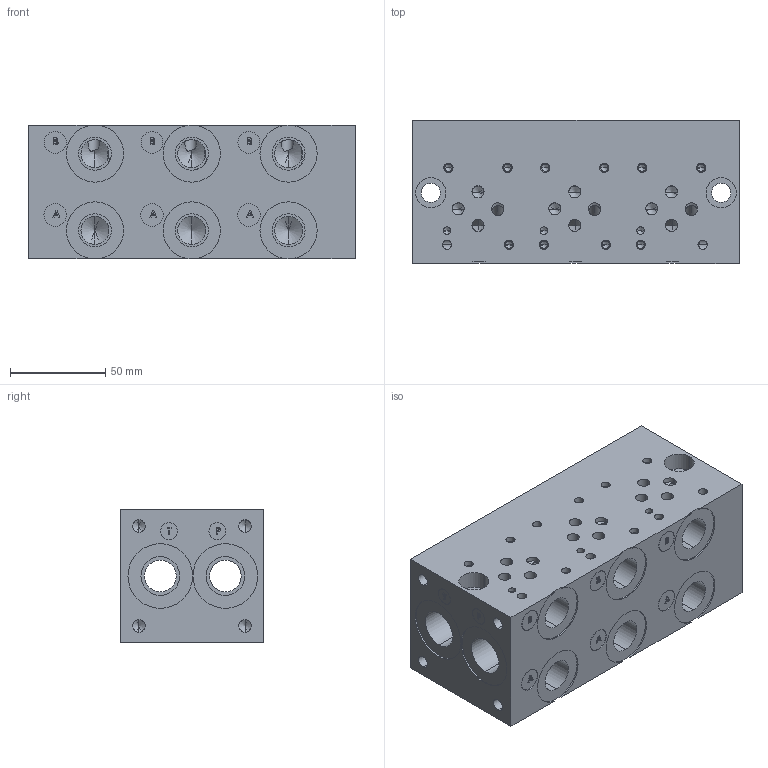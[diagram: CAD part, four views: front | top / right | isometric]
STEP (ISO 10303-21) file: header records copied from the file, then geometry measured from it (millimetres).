
FILE_DESCRIPTION (( 'STEP AP203' ), '1' );
FILE_NAME ('BM-ASP03S2-03-1_Z.STEP', '2015-01-06T15:37:51', ( '' ), ( '' ), 'SwSTEP 2.0', 'SolidWorks 2014', '' );
FILE_SCHEMA (( 'CONFIG_CONTROL_DESIGN' ));
Length unit declared in the file: inch
Products named in the file (1): BM-ASP03S2-03-1_Z
Bounding box: 171.45 x 74.93 x 69.85 mm (x, y, z)
Volume: 748772.6 mm3; surface area: 102972.9 mm2
Topology: 1 solids, 1 shells, 456 faces, 1159 edges, 715 vertices
Faces by surface type: cylinder 180, plane 162, cone 75, bspline 39
Entity records: 16486 total; most frequent: CARTESIAN_POINT 5792, ORIENTED_EDGE 2186, DIRECTION 2122, EDGE_CURVE 1093, AXIS2_PLACEMENT_3D 765, VERTEX_POINT 715, VECTOR 592, LINE 592
